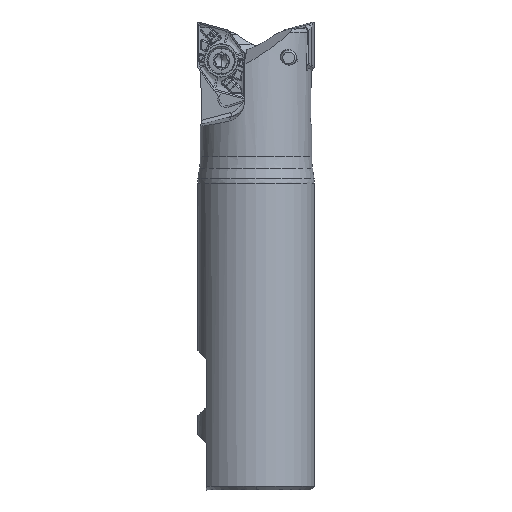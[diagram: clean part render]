
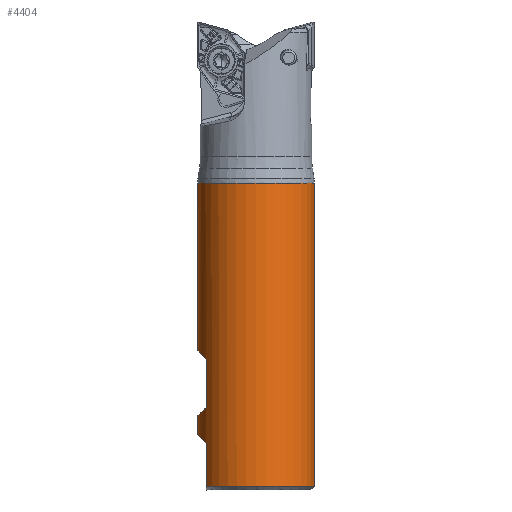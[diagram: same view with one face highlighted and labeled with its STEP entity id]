
A CAD part, front view. The second image highlights one B-rep face of the part: STEP entity #4404.
In plain terms, the highlighted cylindrical face has radius 15.875 mm (diameter 31.75 mm), a partial arc.
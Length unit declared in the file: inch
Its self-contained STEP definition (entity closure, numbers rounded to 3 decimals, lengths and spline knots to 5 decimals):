
#7 = CARTESIAN_POINT ( 'NONE',  ( -0.59284, -0.23004, -4.43034 ) ) ;
#124 = VERTEX_POINT ( 'NONE', #5522 ) ;
#323 = CARTESIAN_POINT ( 'NONE',  ( -0.53098, -0.32967, -3.59322 ) ) ;
#363 = FACE_OUTER_BOUND ( 'NONE', #5548, .T. ) ;
#752 = EDGE_CURVE ( 'NONE', #31358, #6217, #23626, .T. ) ;
#1174 = LINE ( 'NONE', #15606, #10951 ) ;
#1458 = ORIENTED_EDGE ( 'NONE', *, *, #22765, .T. ) ;
#2056 = CARTESIAN_POINT ( 'NONE',  ( -0.53098, -0.32967, -4.1092 ) ) ;
#2125 = CARTESIAN_POINT ( 'NONE',  ( -0.625, 0., 0. ) ) ;
#2598 = DIRECTION ( 'NONE',  ( 0., 0., 1. ) ) ;
#3453 = ORIENTED_EDGE ( 'NONE', *, *, #40199, .T. ) ;
#4404 = ADVANCED_FACE ( 'NONE', ( #363 ), #44226, .T. ) ;
#4882 = EDGE_CURVE ( 'NONE', #38252, #27448, #10732, .T. ) ;
#5522 = CARTESIAN_POINT ( 'NONE',  ( -0.625, 0., -1.71355 ) ) ;
#5548 = EDGE_LOOP ( 'NONE', ( #19290, #19199, #3453, #37206, #7363, #1458, #12066, #26305, #30127, #24388, #36979 ) ) ;
#6122 = EDGE_CURVE ( 'NONE', #43401, #124, #12811, .T. ) ;
#6212 = CARTESIAN_POINT ( 'NONE',  ( 0.625, 0., -4.95283 ) ) ;
#6217 = VERTEX_POINT ( 'NONE', #6212 ) ;
#6429 = CARTESIAN_POINT ( 'NONE',  ( -0.53098, -0.32967, -4.1092 ) ) ;
#6717 = CARTESIAN_POINT ( 'NONE',  ( -0.625, -0.11727, -4.39818 ) ) ;
#7206 = AXIS2_PLACEMENT_3D ( 'NONE', #34621, #43793, #26768 ) ;
#7363 = ORIENTED_EDGE ( 'NONE', *, *, #752, .T. ) ;
#7416 = EDGE_CURVE ( 'NONE', #41142, #28723, #41675, .T. ) ;
#7555 = CARTESIAN_POINT ( 'NONE',  ( 0.625, 0., -1.71355 ) ) ;
#7876 = DIRECTION ( 'NONE',  ( 0., 0., -1. ) ) ;
#8528 = EDGE_CURVE ( 'NONE', #17753, #31358, #29832, .T. ) ;
#10485 = AXIS2_PLACEMENT_3D ( 'NONE', #23799, #17491, #35219 ) ;
#10683 = EDGE_CURVE ( 'NONE', #43401, #32866, #12152, .T. ) ;
#10732 =( BOUNDED_CURVE ( )  B_SPLINE_CURVE ( 3, ( #2056, #18845, #22664, #26003 ),
 .UNSPECIFIED., .F., .T. ) 
 B_SPLINE_CURVE_WITH_KNOTS ( ( 4, 4 ),
 ( 2.58597, 3.14159 ),
 .UNSPECIFIED. ) 
 CURVE ( )  GEOMETRIC_REPRESENTATION_ITEM ( )  RATIONAL_B_SPLINE_CURVE ( ( 1., 0.974, 0.974, 1. ) ) 
 REPRESENTATION_ITEM ( '' )  );
#10951 = VECTOR ( 'NONE', #29738, 39.37008 ) ;
#11243 = CARTESIAN_POINT ( 'NONE',  ( -0.53098, -0.32967, 0. ) ) ;
#12066 = ORIENTED_EDGE ( 'NONE', *, *, #29577, .T. ) ;
#12152 =( BOUNDED_CURVE ( )  B_SPLINE_CURVE ( 3, ( #13930, #37950, #30984, #323 ),
 .UNSPECIFIED., .F., .T. ) 
 B_SPLINE_CURVE_WITH_KNOTS ( ( 4, 4 ),
 ( 0., 0.55562 ),
 .UNSPECIFIED. ) 
 CURVE ( )  GEOMETRIC_REPRESENTATION_ITEM ( )  RATIONAL_B_SPLINE_CURVE ( ( 1., 0.974, 0.974, 1. ) ) 
 REPRESENTATION_ITEM ( '' )  );
#12631 = LINE ( 'NONE', #34172, #42120 ) ;
#12811 = LINE ( 'NONE', #2125, #35533 ) ;
#13006 = DIRECTION ( 'NONE',  ( 0., 0., 1. ) ) ;
#13930 = CARTESIAN_POINT ( 'NONE',  ( -0.625, 0., -3.4992 ) ) ;
#14355 = CARTESIAN_POINT ( 'NONE',  ( -0.625, 0., -4.39818 ) ) ;
#15021 = AXIS2_PLACEMENT_3D ( 'NONE', #18624, #38594, #21569 ) ;
#15490 = LINE ( 'NONE', #11243, #34992 ) ;
#15606 = CARTESIAN_POINT ( 'NONE',  ( -0.53098, -0.32967, 0. ) ) ;
#16351 = CARTESIAN_POINT ( 'NONE',  ( -0.53098, -0.32967, -4.4922 ) ) ;
#17491 = DIRECTION ( 'NONE',  ( 0., 0., 1. ) ) ;
#17753 = VERTEX_POINT ( 'NONE', #23840 ) ;
#18201 = CIRCLE ( 'NONE', #30387, 0.625 ) ;
#18624 = CARTESIAN_POINT ( 'NONE',  ( 0., 0., -4.95283 ) ) ;
#18845 = CARTESIAN_POINT ( 'NONE',  ( -0.59284, -0.23004, -4.17106 ) ) ;
#19199 = ORIENTED_EDGE ( 'NONE', *, *, #7416, .T. ) ;
#19290 = ORIENTED_EDGE ( 'NONE', *, *, #33076, .F. ) ;
#21566 = DIRECTION ( 'NONE',  ( 1., 0., 0. ) ) ;
#21569 = DIRECTION ( 'NONE',  ( 1., 0., 0. ) ) ;
#22354 = EDGE_CURVE ( 'NONE', #32866, #38252, #15490, .T. ) ;
#22664 = CARTESIAN_POINT ( 'NONE',  ( -0.625, -0.11727, -4.20322 ) ) ;
#22698 = CARTESIAN_POINT ( 'NONE',  ( -0.625, 0., 0. ) ) ;
#22765 = EDGE_CURVE ( 'NONE', #6217, #23861, #12631, .T. ) ;
#23626 = CIRCLE ( 'NONE', #15021, 0.625 ) ;
#23738 = CARTESIAN_POINT ( 'NONE',  ( -0.625, 0., -4.39818 ) ) ;
#23799 = CARTESIAN_POINT ( 'NONE',  ( 0., 0., -4.95283 ) ) ;
#23840 = CARTESIAN_POINT ( 'NONE',  ( -0.53098, -0.32967, -4.95283 ) ) ;
#23861 = VERTEX_POINT ( 'NONE', #7555 ) ;
#24388 = ORIENTED_EDGE ( 'NONE', *, *, #22354, .T. ) ;
#24563 = CARTESIAN_POINT ( 'NONE',  ( 0., -0.625, -4.95283 ) ) ;
#24718 = CARTESIAN_POINT ( 'NONE',  ( 0., 0., -1.71355 ) ) ;
#24973 = DIRECTION ( 'NONE',  ( 0., 0., -1. ) ) ;
#26003 = CARTESIAN_POINT ( 'NONE',  ( -0.625, 0., -4.20322 ) ) ;
#26305 = ORIENTED_EDGE ( 'NONE', *, *, #6122, .F. ) ;
#26768 = DIRECTION ( 'NONE',  ( 1., 0., 0. ) ) ;
#27448 = VERTEX_POINT ( 'NONE', #32358 ) ;
#28723 = VERTEX_POINT ( 'NONE', #16351 ) ;
#29577 = EDGE_CURVE ( 'NONE', #23861, #124, #18201, .T. ) ;
#29738 = DIRECTION ( 'NONE',  ( 0., 0., -1. ) ) ;
#29832 = CIRCLE ( 'NONE', #10485, 0.625 ) ;
#30127 = ORIENTED_EDGE ( 'NONE', *, *, #10683, .T. ) ;
#30387 = AXIS2_PLACEMENT_3D ( 'NONE', #24718, #7876, #21566 ) ;
#30984 = CARTESIAN_POINT ( 'NONE',  ( -0.59284, -0.23004, -3.53137 ) ) ;
#31358 = VERTEX_POINT ( 'NONE', #24563 ) ;
#32128 = CARTESIAN_POINT ( 'NONE',  ( -0.625, 0., -3.4992 ) ) ;
#32358 = CARTESIAN_POINT ( 'NONE',  ( -0.625, 0., -4.20322 ) ) ;
#32866 = VERTEX_POINT ( 'NONE', #33045 ) ;
#33045 = CARTESIAN_POINT ( 'NONE',  ( -0.53098, -0.32967, -3.59322 ) ) ;
#33076 = EDGE_CURVE ( 'NONE', #41142, #27448, #43726, .T. ) ;
#34045 = CARTESIAN_POINT ( 'NONE',  ( -0.53098, -0.32967, -4.4922 ) ) ;
#34172 = CARTESIAN_POINT ( 'NONE',  ( 0.625, 0., 0. ) ) ;
#34621 = CARTESIAN_POINT ( 'NONE',  ( 0., 0., 0. ) ) ;
#34992 = VECTOR ( 'NONE', #24973, 39.37008 ) ;
#35219 = DIRECTION ( 'NONE',  ( 1., 0., 0. ) ) ;
#35533 = VECTOR ( 'NONE', #36614, 39.37008 ) ;
#36614 = DIRECTION ( 'NONE',  ( 0., 0., 1. ) ) ;
#36979 = ORIENTED_EDGE ( 'NONE', *, *, #4882, .T. ) ;
#37206 = ORIENTED_EDGE ( 'NONE', *, *, #8528, .T. ) ;
#37950 = CARTESIAN_POINT ( 'NONE',  ( -0.625, -0.11727, -3.4992 ) ) ;
#38252 = VERTEX_POINT ( 'NONE', #6429 ) ;
#38594 = DIRECTION ( 'NONE',  ( 0., 0., 1. ) ) ;
#40199 = EDGE_CURVE ( 'NONE', #28723, #17753, #1174, .T. ) ;
#40734 = VECTOR ( 'NONE', #13006, 39.37008 ) ;
#41142 = VERTEX_POINT ( 'NONE', #14355 ) ;
#41675 =( BOUNDED_CURVE ( )  B_SPLINE_CURVE ( 3, ( #23738, #6717, #7, #34045 ),
 .UNSPECIFIED., .F., .T. ) 
 B_SPLINE_CURVE_WITH_KNOTS ( ( 4, 4 ),
 ( 0., 0.55562 ),
 .UNSPECIFIED. ) 
 CURVE ( )  GEOMETRIC_REPRESENTATION_ITEM ( )  RATIONAL_B_SPLINE_CURVE ( ( 1., 0.974, 0.974, 1. ) ) 
 REPRESENTATION_ITEM ( '' )  );
#42120 = VECTOR ( 'NONE', #2598, 39.37008 ) ;
#43401 = VERTEX_POINT ( 'NONE', #32128 ) ;
#43726 = LINE ( 'NONE', #22698, #40734 ) ;
#43793 = DIRECTION ( 'NONE',  ( 0., 0., 1. ) ) ;
#44226 = CYLINDRICAL_SURFACE ( 'NONE', #7206, 0.625 ) ;
